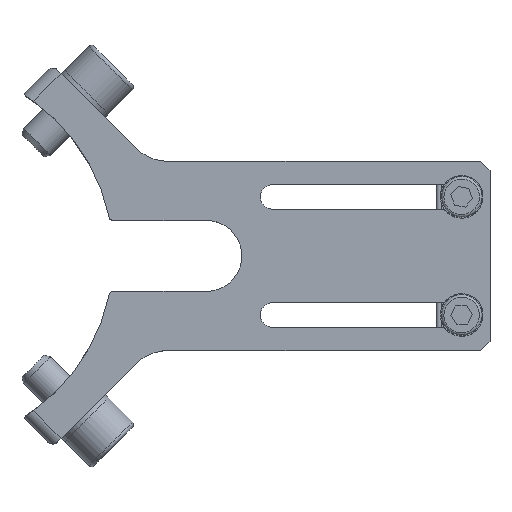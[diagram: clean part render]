
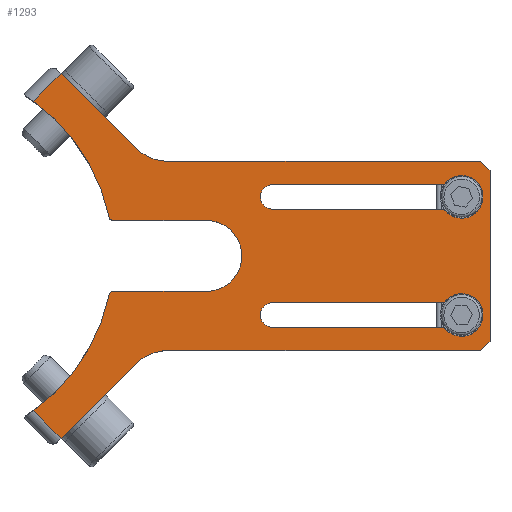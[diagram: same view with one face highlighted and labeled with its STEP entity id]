
A CAD part, top view. The second image highlights one B-rep face of the part: STEP entity #1293.
In plain terms, the highlighted planar face has unit normal (0, 0, 1).
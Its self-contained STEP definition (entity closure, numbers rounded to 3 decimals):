
#1293=ADVANCED_FACE('',(#2292,#2293,#2294),#2295,.T.);
#2292=FACE_OUTER_BOUND('',#3276,.T.);
#2293=FACE_BOUND('',#3277,.T.);
#2294=FACE_BOUND('',#3278,.T.);
#2295=PLANE('',#3279);
#3276=EDGE_LOOP('',(#6040,#6041,#6042,#6043,#6044,#6045,#6046,#6047,#6048,#6049,#6050,#6051,#6052,#6053,#6054,#6055,#6056,#6057));
#3277=EDGE_LOOP('',(#6058,#6059,#6060,#6061));
#3278=EDGE_LOOP('',(#6062,#6063,#6064,#6065));
#3279=AXIS2_PLACEMENT_3D('',#6066,#6067,#6068);
#6040=ORIENTED_EDGE('',*,*,#7307,.T.);
#6041=ORIENTED_EDGE('',*,*,#7363,.T.);
#6042=ORIENTED_EDGE('',*,*,#7441,.T.);
#6043=ORIENTED_EDGE('',*,*,#7442,.T.);
#6044=ORIENTED_EDGE('',*,*,#7443,.T.);
#6045=ORIENTED_EDGE('',*,*,#7444,.T.);
#6046=ORIENTED_EDGE('',*,*,#7445,.T.);
#6047=ORIENTED_EDGE('',*,*,#7446,.T.);
#6048=ORIENTED_EDGE('',*,*,#7346,.T.);
#6049=ORIENTED_EDGE('',*,*,#7447,.T.);
#6050=ORIENTED_EDGE('',*,*,#7334,.T.);
#6051=ORIENTED_EDGE('',*,*,#7448,.T.);
#6052=ORIENTED_EDGE('',*,*,#7321,.T.);
#6053=ORIENTED_EDGE('',*,*,#7449,.T.);
#6054=ORIENTED_EDGE('',*,*,#7316,.T.);
#6055=ORIENTED_EDGE('',*,*,#7435,.T.);
#6056=ORIENTED_EDGE('',*,*,#7313,.T.);
#6057=ORIENTED_EDGE('',*,*,#7429,.T.);
#6058=ORIENTED_EDGE('',*,*,#7419,.F.);
#6059=ORIENTED_EDGE('',*,*,#7413,.F.);
#6060=ORIENTED_EDGE('',*,*,#7417,.F.);
#6061=ORIENTED_EDGE('',*,*,#7410,.F.);
#6062=ORIENTED_EDGE('',*,*,#7423,.F.);
#6063=ORIENTED_EDGE('',*,*,#7401,.F.);
#6064=ORIENTED_EDGE('',*,*,#7421,.F.);
#6065=ORIENTED_EDGE('',*,*,#7406,.F.);
#6066=CARTESIAN_POINT('',(0.0,0.0,30.0));
#6067=DIRECTION('',(0.0,0.0,1.0));
#6068=DIRECTION('',(1.0,0.0,0.0));
#7307=EDGE_CURVE('',#8957,#8955,#8958,.T.);
#7313=EDGE_CURVE('',#8968,#8966,#8969,.T.);
#7316=EDGE_CURVE('',#8972,#8973,#8974,.T.);
#7321=EDGE_CURVE('',#8981,#8982,#8983,.T.);
#7334=EDGE_CURVE('',#9006,#9004,#9007,.T.);
#7346=EDGE_CURVE('',#9028,#9026,#9029,.T.);
#7363=EDGE_CURVE('',#8955,#9052,#9054,.T.);
#7401=EDGE_CURVE('',#9108,#9109,#9110,.T.);
#7406=EDGE_CURVE('',#9114,#9116,#9117,.T.);
#7410=EDGE_CURVE('',#9120,#9122,#9123,.T.);
#7413=EDGE_CURVE('',#9126,#9127,#9128,.T.);
#7417=EDGE_CURVE('',#9122,#9126,#9132,.T.);
#7419=EDGE_CURVE('',#9127,#9120,#9134,.T.);
#7421=EDGE_CURVE('',#9116,#9108,#9136,.T.);
#7423=EDGE_CURVE('',#9109,#9114,#9138,.T.);
#7429=EDGE_CURVE('',#8966,#8957,#9146,.F.);
#7435=EDGE_CURVE('',#8973,#8968,#9154,.F.);
#7441=EDGE_CURVE('',#9052,#9160,#9161,.T.);
#7442=EDGE_CURVE('',#9160,#9162,#9163,.T.);
#7443=EDGE_CURVE('',#9162,#9164,#9165,.T.);
#7444=EDGE_CURVE('',#9164,#9166,#9167,.T.);
#7445=EDGE_CURVE('',#9166,#9168,#9169,.T.);
#7446=EDGE_CURVE('',#9168,#9028,#9170,.T.);
#7447=EDGE_CURVE('',#9026,#9006,#9171,.T.);
#7448=EDGE_CURVE('',#9004,#8981,#9172,.F.);
#7449=EDGE_CURVE('',#8982,#8972,#9173,.F.);
#8955=VERTEX_POINT('',#11276);
#8957=VERTEX_POINT('',#11278);
#8958=LINE('',#11279,#11280);
#8966=VERTEX_POINT('',#11291);
#8968=VERTEX_POINT('',#11294);
#8969=LINE('',#11295,#11296);
#8972=VERTEX_POINT('',#11300);
#8973=VERTEX_POINT('',#11301);
#8974=LINE('',#11302,#11303);
#8981=VERTEX_POINT('',#11313);
#8982=VERTEX_POINT('',#11314);
#8983=LINE('',#11315,#11316);
#9004=VERTEX_POINT('',#11344);
#9006=VERTEX_POINT('',#11347);
#9007=LINE('',#11348,#11349);
#9026=VERTEX_POINT('',#11447);
#9028=VERTEX_POINT('',#11458);
#9029=CIRCLE('',#11459,40.25);
#9052=VERTEX_POINT('',#11541);
#9054=LINE('',#11552,#11553);
#9108=VERTEX_POINT('',#11658);
#9109=VERTEX_POINT('',#11659);
#9110=CIRCLE('',#11660,2.6);
#9114=VERTEX_POINT('',#11666);
#9116=VERTEX_POINT('',#11669);
#9117=CIRCLE('',#11670,2.6);
#9120=VERTEX_POINT('',#11674);
#9122=VERTEX_POINT('',#11677);
#9123=CIRCLE('',#11678,2.6);
#9126=VERTEX_POINT('',#11682);
#9127=VERTEX_POINT('',#11683);
#9128=CIRCLE('',#11684,2.6);
#9132=LINE('',#11690,#11691);
#9134=LINE('',#11693,#11694);
#9136=LINE('',#11696,#11697);
#9138=LINE('',#11699,#11700);
#9146=CIRCLE('',#11711,10.0);
#9154=LINE('',#11722,#11723);
#9160=VERTEX_POINT('',#11739);
#9161=CIRCLE('',#11740,40.25);
#9162=VERTEX_POINT('',#11741);
#9163=CIRCLE('',#11742,1.0);
#9164=VERTEX_POINT('',#11743);
#9165=LINE('',#11744,#11745);
#9166=VERTEX_POINT('',#11746);
#9167=CIRCLE('',#11747,7.5);
#9168=VERTEX_POINT('',#11748);
#9169=LINE('',#11749,#11750);
#9170=CIRCLE('',#11751,1.0);
#9171=LINE('',#11752,#11753);
#9172=CIRCLE('',#11754,10.0);
#9173=LINE('',#11755,#11756);
#11276=CARTESIAN_POINT('',(29.274,38.608,30.0));
#11278=CARTESIAN_POINT('',(44.953,22.929,30.0));
#11279=CARTESIAN_POINT('',(33.941,33.941,30.0));
#11280=VECTOR('',#13085,1.0);
#11291=CARTESIAN_POINT('',(52.024,20.0,30.0));
#11294=CARTESIAN_POINT('',(118.0,20.0,30.0));
#11295=CARTESIAN_POINT('',(47.882,20.0,30.0));
#11296=VECTOR('',#13090,1.0);
#11300=CARTESIAN_POINT('',(120.0,-18.0,30.0));
#11301=CARTESIAN_POINT('',(120.0,18.0,30.0));
#11302=CARTESIAN_POINT('',(120.0,20.0,30.0));
#11303=VECTOR('',#13092,1.0);
#11313=CARTESIAN_POINT('',(52.024,-20.0,30.0));
#11314=CARTESIAN_POINT('',(118.0,-20.0,30.0));
#11315=CARTESIAN_POINT('',(120.0,-20.0,30.0));
#11316=VECTOR('',#13096,1.0);
#11344=CARTESIAN_POINT('',(44.953,-22.929,30.0));
#11347=CARTESIAN_POINT('',(29.274,-38.608,30.0));
#11348=CARTESIAN_POINT('',(33.941,-33.941,30.0));
#11349=VECTOR('',#13114,1.0);
#11447=CARTESIAN_POINT('',(23.409,-32.743,30.0));
#11458=CARTESIAN_POINT('',(39.386,-8.294,30.0));
#11459=AXIS2_PLACEMENT_3D('',#13125,#13126,#13127);
#11541=CARTESIAN_POINT('',(23.409,32.743,30.0));
#11552=CARTESIAN_POINT('',(-4.667,4.667,30.0));
#11553=VECTOR('',#13133,1.0);
#11658=CARTESIAN_POINT('',(114.0,-15.1,30.0));
#11659=CARTESIAN_POINT('',(114.0,-9.9,30.0));
#11660=AXIS2_PLACEMENT_3D('',#13179,#13180,#13181);
#11666=CARTESIAN_POINT('',(74.0,-9.9,30.0));
#11669=CARTESIAN_POINT('',(74.0,-15.1,30.0));
#11670=AXIS2_PLACEMENT_3D('',#13185,#13186,#13187);
#11674=CARTESIAN_POINT('',(74.0,15.1,30.0));
#11677=CARTESIAN_POINT('',(74.0,9.9,30.0));
#11678=AXIS2_PLACEMENT_3D('',#13190,#13191,#13192);
#11682=CARTESIAN_POINT('',(114.0,9.9,30.0));
#11683=CARTESIAN_POINT('',(114.0,15.1,30.0));
#11684=AXIS2_PLACEMENT_3D('',#13194,#13195,#13196);
#11690=CARTESIAN_POINT('',(114.0,9.9,30.0));
#11691=VECTOR('',#13199,1.0);
#11693=CARTESIAN_POINT('',(74.0,15.1,30.0));
#11694=VECTOR('',#13200,1.0);
#11696=CARTESIAN_POINT('',(114.0,-15.1,30.0));
#11697=VECTOR('',#13201,1.0);
#11699=CARTESIAN_POINT('',(74.0,-9.9,30.0));
#11700=VECTOR('',#13202,1.0);
#11711=AXIS2_PLACEMENT_3D('',#13206,#13207,#13208);
#11722=CARTESIAN_POINT('',(69.0,69.0,30.0));
#11723=VECTOR('',#13212,1.0);
#11739=CARTESIAN_POINT('',(39.386,8.294,30.0));
#11740=AXIS2_PLACEMENT_3D('',#13213,#13214,#13215);
#11741=CARTESIAN_POINT('',(40.365,7.5,30.0));
#11742=AXIS2_PLACEMENT_3D('',#13216,#13217,#13218);
#11743=CARTESIAN_POINT('',(60.0,7.5,30.0));
#11744=CARTESIAN_POINT('',(60.0,7.5,30.0));
#11745=VECTOR('',#13219,1.0);
#11746=CARTESIAN_POINT('',(60.0,-7.5,30.0));
#11747=AXIS2_PLACEMENT_3D('',#13220,#13221,#13222);
#11748=CARTESIAN_POINT('',(40.365,-7.5,30.0));
#11749=CARTESIAN_POINT('',(60.0,-7.5,30.0));
#11750=VECTOR('',#13223,1.0);
#11751=AXIS2_PLACEMENT_3D('',#13224,#13225,#13226);
#11752=CARTESIAN_POINT('',(28.214,-37.547,30.0));
#11753=VECTOR('',#13227,1.0);
#11754=AXIS2_PLACEMENT_3D('',#13228,#13229,#13230);
#11755=CARTESIAN_POINT('',(69.0,-69.0,30.0));
#11756=VECTOR('',#13231,1.0);
#13085=DIRECTION('',(-0.707,0.707,0.0));
#13090=DIRECTION('',(-1.0,0.0,0.0));
#13092=DIRECTION('',(0.0,1.0,0.0));
#13096=DIRECTION('',(1.0,0.,0.0));
#13114=DIRECTION('',(0.707,0.707,0.0));
#13125=CARTESIAN_POINT('',(0.0,0.0,30.0));
#13126=DIRECTION('',(0.0,0.0,-1.0));
#13127=DIRECTION('',(1.0,0.0,0.0));
#13133=DIRECTION('',(-0.707,-0.707,0.0));
#13179=CARTESIAN_POINT('',(114.0,-12.5,30.0));
#13180=DIRECTION('',(0.0,0.0,1.0));
#13181=DIRECTION('',(1.0,0.0,0.0));
#13185=CARTESIAN_POINT('',(74.0,-12.5,30.0));
#13186=DIRECTION('',(0.0,0.0,1.0));
#13187=DIRECTION('',(1.0,0.0,0.0));
#13190=CARTESIAN_POINT('',(74.0,12.5,30.0));
#13191=DIRECTION('',(0.0,0.0,1.0));
#13192=DIRECTION('',(1.0,0.0,0.0));
#13194=CARTESIAN_POINT('',(114.0,12.5,30.0));
#13195=DIRECTION('',(0.0,0.0,1.0));
#13196=DIRECTION('',(1.0,0.0,0.0));
#13199=DIRECTION('',(1.0,0.0,0.0));
#13200=DIRECTION('',(-1.0,0.0,0.0));
#13201=DIRECTION('',(1.0,0.0,0.0));
#13202=DIRECTION('',(-1.0,0.0,0.0));
#13206=CARTESIAN_POINT('',(52.024,30.0,30.0));
#13207=DIRECTION('',(0.0,0.0,1.0));
#13208=DIRECTION('',(1.0,0.0,0.0));
#13212=DIRECTION('',(0.707,-0.707,0.0));
#13213=CARTESIAN_POINT('',(0.0,0.0,30.0));
#13214=DIRECTION('',(0.0,0.0,-1.0));
#13215=DIRECTION('',(1.0,0.0,0.0));
#13216=CARTESIAN_POINT('',(40.365,8.5,30.0));
#13217=DIRECTION('',(0.0,0.0,1.0));
#13218=DIRECTION('',(1.0,0.0,0.0));
#13219=DIRECTION('',(1.0,0.0,0.0));
#13220=CARTESIAN_POINT('',(60.0,0.0,30.0));
#13221=DIRECTION('',(0.0,0.0,-1.0));
#13222=DIRECTION('',(1.0,0.0,0.0));
#13223=DIRECTION('',(-1.0,0.0,0.0));
#13224=CARTESIAN_POINT('',(40.365,-8.5,30.0));
#13225=DIRECTION('',(0.0,0.0,1.0));
#13226=DIRECTION('',(1.0,0.0,0.0));
#13227=DIRECTION('',(0.707,-0.707,0.0));
#13228=CARTESIAN_POINT('',(52.024,-30.0,30.0));
#13229=DIRECTION('',(0.0,0.0,1.0));
#13230=DIRECTION('',(1.0,0.0,0.0));
#13231=DIRECTION('',(-0.707,-0.707,0.0));
